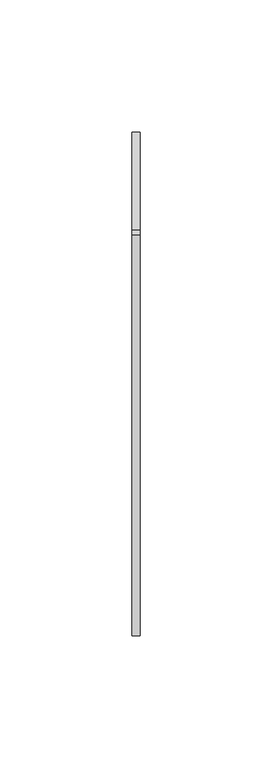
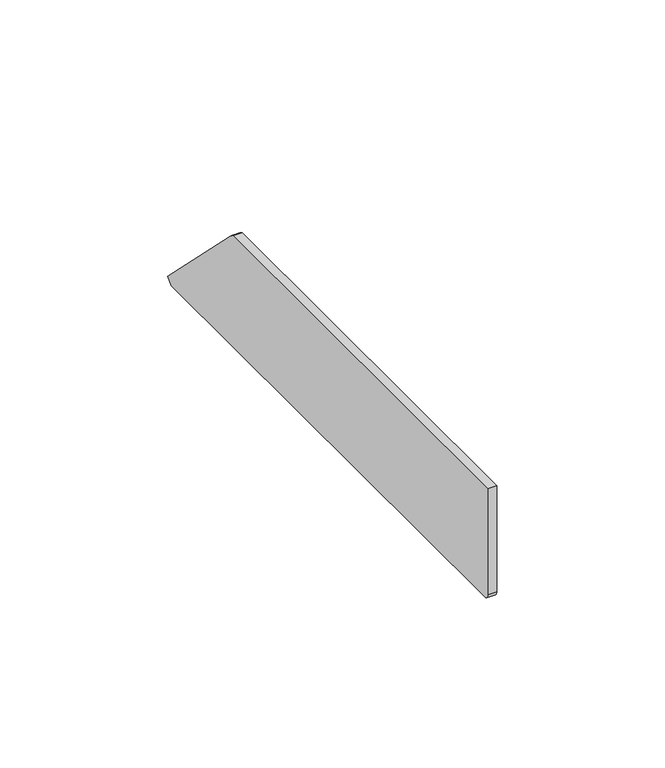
"""IFC4 building model written with IfcOpenShell, lengths in millimetres: cable carrier fitting geometry, Electrical_Installation_Hager_End-Piece : Electrical_Installation_Hager_End-Piece."""

import ifcopenshell
import ifcopenshell.guid

model = None  # the IFC model being written
_history = None  # IfcOwnerHistory: only IFC2X3 demands one
_inside = {}  # id of a spatial element -> (the spatial element, [elements in it])
_under = {}  # id of a project, library or spatial element -> (it, [spatial elements below it])
_declared = {}  # id of a project -> (the project, [libraries it declares])
_typed = {}  # id of a type object -> (the type object, [elements of that type])
_made_of = {}  # id of a material, layer set ... -> (it, [elements and type objects made of it])


def new_model(schema):
    """Start an empty IFC model of exactly this schema.

    Asked for "IFC4X3", IfcOpenShell would pick the latest addendum, in which some entities
    have other attributes; the version numbers below select the first issue.
    IFC2X3 requires an IfcOwnerHistory on every rooted entity: one is made here for all.
    """
    global model, _history
    if schema == "IFC4X3":
        model = ifcopenshell.file(schema_version=(4, 3, 0, 0))
    else:
        model = ifcopenshell.file(schema=schema)
    _inside.clear()
    _under.clear()
    _declared.clear()
    _typed.clear()
    _made_of.clear()
    _history = None
    if model.schema == "IFC2X3":
        org = make("IfcOrganization", Name="unknown")
        user = make(
            "IfcPersonAndOrganization",
            ThePerson=make("IfcPerson", FamilyName="unknown"),
            TheOrganization=org,
        )
        app = make(
            "IfcApplication",
            ApplicationDeveloper=org,
            Version="unknown",
            ApplicationFullName="unknown",
            ApplicationIdentifier="unknown",
        )
        _history = make(
            "IfcOwnerHistory",
            OwningUser=user,
            OwningApplication=app,
            ChangeAction="ADDED",
            CreationDate=0,
        )
    return model


def make(cls, **values):
    """One entity of the class cls with the attributes given. An attribute that is None is left unset."""
    return model.create_entity(
        cls, **{name: value for name, value in values.items() if value is not None}
    )


def rooted(cls, **values):
    """An entity with a GlobalId (a new one), such as an element, a storey or a relation."""
    return make(cls, GlobalId=ifcopenshell.guid.new(), OwnerHistory=_history, **values)


def si_unit(unit_type, name, prefix=None):
    """IfcSIUnit, for example si_unit("LENGTHUNIT", "METRE", prefix="MILLI")."""
    return make("IfcSIUnit", UnitType=unit_type, Prefix=prefix, Name=name)


def assignment(units):
    """IfcUnitAssignment: the units of a project."""
    return None if units is None else make("IfcUnitAssignment", Units=units)


def point(xyz):
    """IfcCartesianPoint."""
    return None if xyz is None else make("IfcCartesianPoint", Coordinates=xyz)


def direction(xyz):
    """IfcDirection."""
    return None if xyz is None else make("IfcDirection", DirectionRatios=xyz)


def frame(location, z_axis=None, x_axis=None):
    """IfcAxis2Placement3D, a coordinate frame: its origin and axes. An axis left out is left unset."""
    return make(
        "IfcAxis2Placement3D",
        Location=point(location),
        Axis=direction(z_axis),
        RefDirection=direction(x_axis),
    )


def frame_2d(location, x_axis=None):
    """IfcAxis2Placement2D, a coordinate frame in the plane: its origin and x axis."""
    return make(
        "IfcAxis2Placement2D", Location=point(location), RefDirection=direction(x_axis)
    )


def origin():
    """The frame at (0, 0, 0) with its axes left unset."""
    return frame((0.0, 0.0, 0.0))


def place(relative_to, where):
    """IfcLocalPlacement: puts the frame where relative to a parent placement (None: the world)."""
    return make(
        "IfcLocalPlacement", PlacementRelTo=relative_to, RelativePlacement=where
    )


def context(
    kind, dimensions, precision=None, world=None, true_north=None, identifier=None
):
    """IfcGeometricRepresentationContext, for example the 3D "Model" context."""
    return make(
        "IfcGeometricRepresentationContext",
        ContextIdentifier=identifier,
        ContextType=kind,
        CoordinateSpaceDimension=dimensions,
        Precision=precision,
        WorldCoordinateSystem=world,
        TrueNorth=true_north,
    )


def project(units=None, contexts=None):
    """IfcProject with its units and contexts."""
    return rooted(
        "IfcProject",
        Name="project",
        RepresentationContexts=contexts,
        UnitsInContext=assignment(units),
    )


def spatial(cls, under=None, at=None, **own):
    """A site, building, storey or space (cls), placed at a placement, below another one or the project."""
    s = rooted(cls, ObjectPlacement=at, **own)
    if under is not None:
        _under.setdefault(under.id(), (under, []))[1].append(s)
    return s


def polyline(points):
    """IfcPolyline through the points."""
    return make("IfcPolyline", Points=[point(p) for p in points])


def circle_curve(where, radius):
    """IfcCircle in the frame where."""
    return make("IfcCircle", Position=where, Radius=radius)


def trimmed(basis, trim1, trim2, sense, master):
    """IfcTrimmedCurve: the piece of a basis curve between two trims."""
    return make(
        "IfcTrimmedCurve",
        BasisCurve=basis,
        Trim1=trim1,
        Trim2=trim2,
        SenseAgreement=sense,
        MasterRepresentation=master,
    )


def segment(curve, same_sense, transition):
    """IfcCompositeCurveSegment."""
    return make(
        "IfcCompositeCurveSegment",
        Transition=transition,
        SameSense=same_sense,
        ParentCurve=curve,
    )


def composite_curve(segments, self_intersect=None):
    """IfcCompositeCurve: segments joined end to end."""
    return make("IfcCompositeCurve", Segments=segments, SelfIntersect=self_intersect)


def outline(outer, holes=None, kind="AREA"):
    """IfcArbitraryClosedProfileDef: a profile drawn as a closed curve; with holes, ...WithVoids."""
    if holes is None:
        return make("IfcArbitraryClosedProfileDef", ProfileType=kind, OuterCurve=outer)
    return make(
        "IfcArbitraryProfileDefWithVoids",
        ProfileType=kind,
        OuterCurve=outer,
        InnerCurves=holes,
    )


def extrude(swept, where, along, depth):
    """IfcExtrudedAreaSolid: the profile swept, set in the frame where, extruded along a direction by depth."""
    return make(
        "IfcExtrudedAreaSolid",
        SweptArea=swept,
        Position=where,
        ExtrudedDirection=direction(along),
        Depth=depth,
    )


def shape(context_of_items, identifier, shape_type, items):
    """IfcShapeRepresentation: the items that make up one representation, for example the "Body"."""
    return make(
        "IfcShapeRepresentation",
        ContextOfItems=context_of_items,
        RepresentationIdentifier=identifier,
        RepresentationType=shape_type,
        Items=items,
    )


def source(mapping_origin, context_of_items, identifier, shape_type, items):
    """IfcRepresentationMap: a shape defined once, which mapped items show again and again."""
    return make(
        "IfcRepresentationMap",
        MappingOrigin=mapping_origin,
        MappedRepresentation=shape(context_of_items, identifier, shape_type, items),
    )


def transform(
    local_origin,
    x_axis=None,
    y_axis=None,
    z_axis=None,
    scale=None,
    scale2=None,
    scale3=None,
    uniform=True,
):
    """IfcCartesianTransformationOperator3D, or its non-uniform kind. x_axis, y_axis, z_axis: its Axis1, 2, 3."""
    if uniform:
        return make(
            "IfcCartesianTransformationOperator3D",
            Axis1=direction(x_axis),
            Axis2=direction(y_axis),
            LocalOrigin=point(local_origin),
            Scale=scale,
            Axis3=direction(z_axis),
        )
    return make(
        "IfcCartesianTransformationOperator3DnonUniform",
        Axis1=direction(x_axis),
        Axis2=direction(y_axis),
        LocalOrigin=point(local_origin),
        Scale=scale,
        Axis3=direction(z_axis),
        Scale2=scale2,
        Scale3=scale3,
    )


def mapped(mapping_source, mapping_target):
    """IfcMappedItem: shows the shape of a source again, moved by a transform."""
    return make(
        "IfcMappedItem", MappingSource=mapping_source, MappingTarget=mapping_target
    )


def made_of(thing, what):
    """Note that an element or type object is made of a material, layer set ...; save() writes the relation."""
    if what is not None:
        _made_of.setdefault(what.id(), (what, []))[1].append(thing)
    return thing


def element(
    cls,
    number,
    at=None,
    inside=None,
    cuts=None,
    type_object=None,
    material=None,
    context=None,
    identifier="Body",
    shape_type=None,
    held_by="IfcProductDefinitionShape",
    body=None,
    shapes=None,
    **own,
):
    """One element of the class cls, such as IfcWall. Its Tag is "e" and its number.

    at: its placement. inside: the storey or other place that contains it. cuts: it is an
    opening in that element (IfcRelVoidsElement). A single representation is given by context,
    identifier, shape_type and body (its items); several are given by shapes. held_by: the class
    of the entity that holds the representations. save() writes the other relations.
    """
    e = rooted(cls, Tag="e%d" % number, ObjectPlacement=at, **own)
    if body is not None:
        shapes = [shape(context, identifier, shape_type, body)]
    if shapes is not None:
        e.Representation = make(held_by, Representations=shapes)
    if inside is not None:
        _inside.setdefault(inside.id(), (inside, []))[1].append(e)
    if cuts is not None:
        rooted(
            "IfcRelVoidsElement", RelatingBuildingElement=cuts, RelatedOpeningElement=e
        )
    if type_object is not None:
        _typed.setdefault(type_object.id(), (type_object, []))[1].append(e)
    return made_of(e, material)


def aggregate(whole, parts):
    """IfcRelAggregates: a whole, such as a stair, and the parts it consists of."""
    return rooted("IfcRelAggregates", RelatingObject=whole, RelatedObjects=parts)


def save(model, path):
    """Write the relations noted so far, then the file.

    IfcRelAggregates (storeys below a building ...), IfcRelContainedInSpatialStructure (elements
    in a storey), IfcRelDefinesByType, IfcRelAssociatesMaterial and IfcRelDeclares: one each for
    every whole, place, type object, material and project.
    """
    for whole, parts in _under.values():
        aggregate(whole, parts)
    for where, things in _inside.values():
        rooted(
            "IfcRelContainedInSpatialStructure",
            RelatedElements=things,
            RelatingStructure=where,
        )
    for kind, things in _typed.values():
        rooted("IfcRelDefinesByType", RelatedObjects=things, RelatingType=kind)
    for what, things in _made_of.values():
        rooted("IfcRelAssociatesMaterial", RelatedObjects=things, RelatingMaterial=what)
    for by, libraries in _declared.values():
        rooted("IfcRelDeclares", RelatingContext=by, RelatedDefinitions=libraries)
    model.write(path)


def cable_carrier_fitting_70c32f65(model_context):
    return source(origin(), model_context, "Body", "SweptSolid", [
        extrude(outline(composite_curve([segment(polyline([(-75.0, -18.0), (-75.0, 20.5), (76.7124549, 20.5)]), True, "CONTINUOUS"), segment(trimmed(circle_curve(frame_2d((75.5004738, 16.6648514)), 4.0220969), [point((76.7124549, 20.5))], [point((78.5142136, 19.3284271))], False, "CARTESIAN"), True, "CONTINUOUS"), segment(polyline([(78.5142136, 19.3284271), (115.7213203, -17.8786797), (113.6, -20.0), (-73.0, -20.0)]), True, "CONTINUOUS"), segment(trimmed(circle_curve(frame_2d((-73.0, -18.0)), 2.0), [point((-73.0, -20.0))], [point((-75.0, -18.0))], False, "CARTESIAN"), True, "CONTINUOUS")], self_intersect=False)), frame((0.0, 0.0, 0.0), z_axis=(1.0, 0.0, 0.0), x_axis=(0.0, 1.0, 0.0)), (0.0, 0.0, 1.0), 3.0),
    ])


if __name__ == "__main__":
    model = new_model("IFC4")
    model_context = context("Model", 3, world=origin())
    ifc_project = project(units=[si_unit("LENGTHUNIT", "METRE", prefix="MILLI")], contexts=[model_context])
    site = spatial("IfcSite", under=ifc_project)
    building = spatial("IfcBuilding", under=site)
    placement = place(None, origin())
    cable_carrier_fitting_shape = cable_carrier_fitting_70c32f65(model_context)
    element("IfcCableCarrierFitting", 1, ObjectType="Electrical_Installation_Hager_End-Piece : Electrical_Installation_Hager_End-Piece", at=placement, inside=building, context=model_context, shape_type="MappedRepresentation", body=[
        mapped(cable_carrier_fitting_shape, transform((0.0, 0.0, 0.0), x_axis=(1.0, 0.0, 0.0), y_axis=(0.0, 1.0, 0.0), z_axis=(0.0, 0.0, 1.0))),
    ])
    save(model, "model.ifc")
